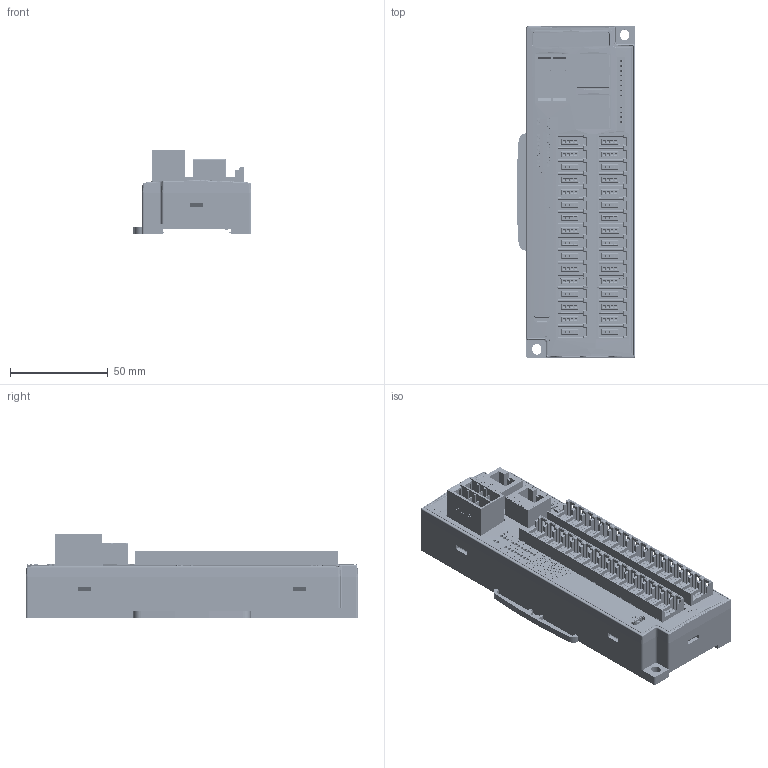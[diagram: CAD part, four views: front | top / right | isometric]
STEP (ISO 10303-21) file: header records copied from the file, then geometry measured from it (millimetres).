
FILE_DESCRIPTION((''),'2;1');
FILE_NAME('ECEPW0','2026-05-11T16:08:36',('gijyu181'),(''),'CREO PARAMETRIC BY PTC INC, 2018050','CREO PARAMETRIC BY PTC INC, 2018050','');
FILE_SCHEMA(('CONFIG_CONTROL_DESIGN','SHAPE_APPEARANCE_LAYERS_GROUPS'));
Products named in the file (1): ECEPW0
Bounding box: 60.87 x 170 x 42.6 mm (x, y, z)
Volume: 275218.3 mm3; surface area: 162520 mm2
Topology: 653 solids, 653 shells, 17463 faces, 46304 edges, 30896 vertices
Faces by surface type: plane 12793, extrusion 2436, cylinder 2099, bspline 69, cone 41, torus 21, sphere 4
Entity records: 666078 total; most frequent: CARTESIAN_POINT 151400, ORIENTED_EDGE 92608, DIRECTION 77357, EDGE_CURVE 46304, VECTOR 38077, LINE 35641, VERTEX_POINT 30896, AXIS2_PLACEMENT_3D 19640
